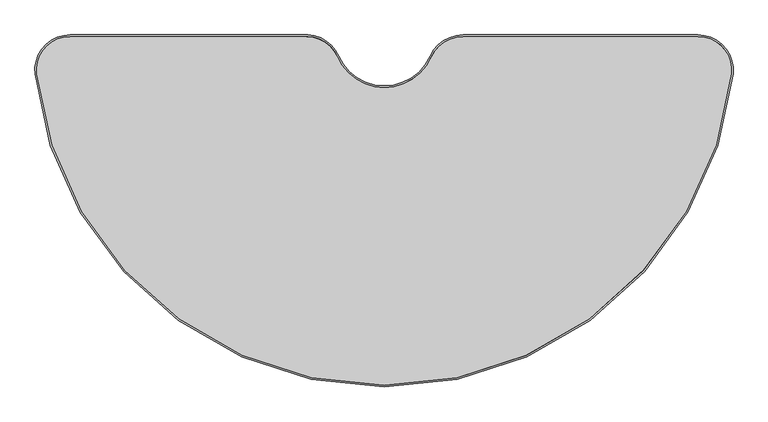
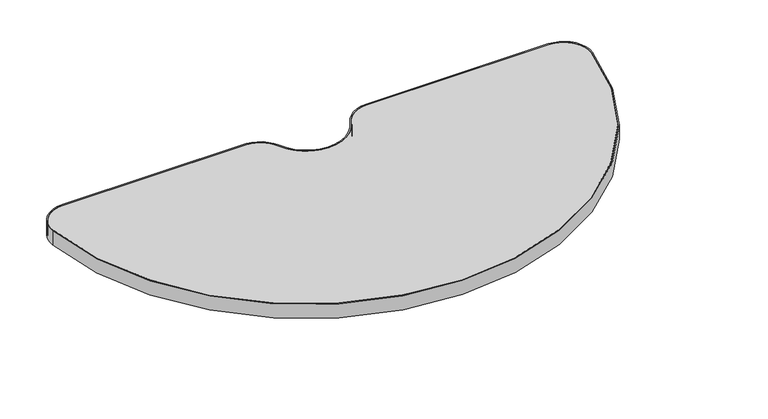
"""IFC4 building model written with IfcOpenShell, lengths in millimetres: furniture geometry, Steelcase - Groupwork - Table - Top - Half Round with Cutout : 21D x 42W - HPL."""

from ifc_helpers import new_model, si_unit, point, frame, frame_2d, origin, place, context, project, spatial, polyline, circle_curve, trimmed, segment, composite_curve, outline, extrude, source, transform, mapped, element, save
from ifc_brep_helpers import plane_surface, cylinder_surface, revolved_surface, advanced_brep


def furniture_9cbd6c0b(model_context):
    return source(origin(), model_context, "Body", "SolidModel", [
        advanced_brep(
        [(-71.4378526, -30.40257, 695.579), (71.1608005, -31.0358902, 695.579), (71.1608005, -31.0358902, 724.281), (-71.4378526, -30.40257, 724.281), (-69.2062796, -29.4255728, 724.281), (68.9379936, -30.0391099, 724.281), (68.9379936, -30.0391099, 695.579), (-69.2062796, -29.4255728, 695.579), (-115.5671126, -6.97e-05, 695.579), (-115.5671126, -6.97e-05, 724.281), (-115.4492453, 2.4331481, 724.281), (-115.4492453, 2.4331481, 695.579), (-474.3153855, 0.0, 724.281), (-474.3153855, 0.0, 695.579), (-474.3153855, 2.4360709, 695.579), (-474.3153855, 2.4360709, 724.281), (-525.0844031, -56.7399707, 695.579), (-525.0844031, -56.7399707, 724.281), (-527.5054916, -57.009733, 724.281), (-527.5054916, -57.009733, 695.579), (524.0303068, -56.2186101, 695.579), (524.0303068, -56.2186101, 724.281), (526.4524448, -56.4787807, 724.281), (526.4524448, -56.4787807, 695.579), (473.5440587, 2.3819932, 724.281), (119.0083908, 2.3819932, 724.281), (473.5440587, -0.0540777, 724.281), (119.0083908, -0.0540777, 724.281), (473.5440587, -0.0540777, 695.579), (473.5440587, 2.3819932, 695.579), (119.0083908, 2.3819932, 695.579), (119.0083908, -0.0540777, 695.579)],
        [
            (0, 1, circle_curve(frame((0.001789, 0.8741706, 695.579), z_axis=(0.0, 0.0, 1.0), x_axis=(0.9124557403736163, -0.40917541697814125, 0.0)), 77.9862609)),
            (1, 2),
            (2, 3, circle_curve(frame((0.001789, 0.8741706, 724.281), z_axis=(0.0, 0.0, -1.0), x_axis=(0.9124557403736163, -0.40917541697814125, 0.0)), 77.9862609)),
            (3, 0),
            (4, 5, circle_curve(frame((0.001789, 0.8741706, 724.281), z_axis=(0.0, 0.0, 1.0), x_axis=(0.9124557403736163, -0.40917541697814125, 0.0)), 75.55019)),
            (5, 6),
            (6, 7, circle_curve(frame((0.001789, 0.8741706, 695.579), z_axis=(0.0, 0.0, -1.0), x_axis=(0.9124557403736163, -0.40917541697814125, 0.0)), 75.55019)),
            (7, 4),
            (8, 0, circle_curve(frame((-118.0279082, -50.8, 695.579), z_axis=(0.0, 0.0, -1.0), x_axis=(0.9160541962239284, 0.40105449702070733, 0.0)), 50.859497)),
            (3, 9, circle_curve(frame((-118.0279082, -50.8, 724.281), z_axis=(0.0, 0.0, 1.0), x_axis=(0.9160541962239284, 0.40105449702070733, 0.0)), 50.859497)),
            (9, 8),
            (10, 4, circle_curve(frame((-118.0279082, -50.8, 724.281), z_axis=(0.0, 0.0, -1.0), x_axis=(0.9160541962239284, 0.40105449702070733, 0.0)), 53.2955679)),
            (7, 11, circle_curve(frame((-118.0279082, -50.8, 695.579), z_axis=(0.0, 0.0, 1.0), x_axis=(0.9160541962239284, 0.40105449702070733, 0.0)), 53.2955679)),
            (11, 10),
            (9, 12),
            (12, 13),
            (13, 8),
            (11, 14),
            (14, 15),
            (15, 10),
            (16, 13, circle_curve(frame((-474.3153855, -51.0831901, 695.579), z_axis=(0.0, 0.0, -1.0), x_axis=(0.0, 1.0, 0.0)), 51.0831901)),
            (12, 17, circle_curve(frame((-474.3153855, -51.0831901, 724.281), z_axis=(0.0, 0.0, 1.0), x_axis=(0.0, 1.0, 0.0)), 51.0831901)),
            (17, 16),
            (18, 15, circle_curve(frame((-474.3153855, -51.0831901, 724.281), z_axis=(0.0, 0.0, -1.0), x_axis=(0.0, 1.0, 0.0)), 53.519261)),
            (14, 19, circle_curve(frame((-474.3153855, -51.0831901, 695.579), z_axis=(0.0, 0.0, 1.0), x_axis=(0.0, 1.0, 0.0)), 53.519261)),
            (19, 18),
            (20, 16, circle_curve(frame((-0.55518, 0.1290185, 695.579), z_axis=(0.0, 0.0, -1.0), x_axis=(-0.994173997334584, -0.10778711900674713, 0.0)), 527.6030593)),
            (17, 21, circle_curve(frame((-0.55518, 0.1290185, 724.281), z_axis=(0.0, 0.0, 1.0), x_axis=(-0.994173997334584, -0.10778711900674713, 0.0)), 527.6030593)),
            (21, 20),
            (22, 18, circle_curve(frame((-0.55518, 0.1290185, 724.281), z_axis=(0.0, 0.0, -1.0), x_axis=(-0.994173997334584, -0.10778711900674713, 0.0)), 530.0391302)),
            (19, 23, circle_curve(frame((-0.55518, 0.1290185, 695.579), z_axis=(0.0, 0.0, 1.0), x_axis=(-0.994173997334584, -0.10778711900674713, 0.0)), 530.0391302)),
            (23, 22),
            (22, 24, circle_curve(frame((473.5440587, -50.8273656, 724.281), z_axis=(0.0, 0.0, 1.0), x_axis=(0.9943467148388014, -0.10618196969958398, 0.0)), 53.2093588)),
            (24, 25),
            (25, 5, circle_curve(frame((119.0083908, -52.4923366, 724.281), z_axis=(0.0, 0.0, 1.0), x_axis=(0.0, 1.0, 0.0)), 54.8743298)),
            (26, 21, circle_curve(frame((473.5440587, -50.8273656, 724.281), z_axis=(0.0, 0.0, -1.0), x_axis=(0.9943467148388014, -0.10618196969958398, 0.0)), 50.7732879)),
            (2, 27, circle_curve(frame((119.0083908, -52.4923366, 724.281), z_axis=(0.0, 0.0, -1.0), x_axis=(0.0, 1.0, 0.0)), 52.4382589)),
            (27, 26),
            (28, 20, circle_curve(frame((473.5440587, -50.8273656, 695.579), z_axis=(0.0, 0.0, -1.0), x_axis=(0.9943467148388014, -0.10618196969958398, 0.0)), 50.7732879)),
            (26, 28),
            (29, 23, circle_curve(frame((473.5440587, -50.8273656, 695.579), z_axis=(0.0, 0.0, -1.0), x_axis=(0.9943467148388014, -0.10618196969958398, 0.0)), 53.2093588)),
            (6, 30, circle_curve(frame((119.0083908, -52.4923366, 695.579), z_axis=(0.0, 0.0, -1.0), x_axis=(0.0, 1.0, 0.0)), 54.8743298)),
            (30, 29),
            (28, 31),
            (31, 1, circle_curve(frame((119.0083908, -52.4923366, 695.579), z_axis=(0.0, 0.0, 1.0), x_axis=(0.0, 1.0, 0.0)), 52.4382589)),
            (29, 24),
            (27, 31),
            (30, 25),
        ],
        [
            cylinder_surface(frame((0.001789, 0.8741706, 0.0), z_axis=(0.0, 0.0, -1.0), x_axis=(0.9124557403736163, -0.40917541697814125, 0.0)), 77.9862609),
            revolved_surface(polyline([(68.93799355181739, -30.0391098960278, 695.579), (68.93799355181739, -30.0391098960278, 724.281)]), (0.001789, 0.8741706, 0.0), (0.0, 0.0, -1.0)),
            revolved_surface(polyline([(-71.43785255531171, -30.402570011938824, 724.281), (-71.43785255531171, -30.402570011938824, 695.579)]), (-118.0279082, -50.8, 0.0), (0.0, 0.0, 1.0)),
            cylinder_surface(frame((-118.0279082, -50.8, 0.0), z_axis=(0.0, 0.0, 1.0), x_axis=(0.9160541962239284, 0.40105449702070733, 0.0)), 53.2955679),
            plane_surface(frame((-115.5671092, 0.0, 724.281), z_axis=(0.0, -1.0, 0.0), x_axis=(-1.0, 0.0, 0.0))),
            plane_surface(frame((-115.4491037, 2.4360709, 695.579), z_axis=(0.0, 1.0, 0.0), x_axis=(-1.0, 0.0, 0.0))),
            revolved_surface(polyline([(-474.3153855, 0.0, 724.281), (-474.3153855, 0.0, 695.579)]), (-474.3153855, -51.0831901, 0.0), (0.0, 0.0, 1.0)),
            cylinder_surface(frame((-474.3153855, -51.0831901, 0.0), z_axis=(0.0, 0.0, 1.0), x_axis=(0.0, 1.0, 0.0)), 53.519261),
            revolved_surface(polyline([(-525.0844224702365, -56.73979524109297, 724.281), (-525.0844224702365, -56.73979524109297, 695.579)]), (-0.55518, 0.1290185, 0.0), (0.0, 0.0, 1.0)),
            cylinder_surface(frame((-0.55518, 0.1290185, 0.0), z_axis=(0.0, 0.0, 1.0), x_axis=(-0.994173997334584, -0.10778711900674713, 0.0)), 530.0391302),
            plane_surface(frame((473.5440587, -50.8273656, 724.281), z_axis=(0.0, 0.0, 1.0), x_axis=(0.9943467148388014, -0.10618196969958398, 0.0))),
            revolved_surface(polyline([(524.0303107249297, -56.218573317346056, 724.281), (524.0303107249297, -56.218573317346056, 695.579)]), (473.5440587, -50.8273656, 0.0), (0.0, 0.0, 1.0)),
            plane_surface(frame((473.5440587, -50.8273656, 695.579), z_axis=(0.0, 0.0, -1.0), x_axis=(0.9943467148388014, -0.10618196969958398, 0.0))),
            cylinder_surface(frame((473.5440587, -50.8273656, 0.0), z_axis=(0.0, 0.0, 1.0), x_axis=(0.9943467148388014, -0.10618196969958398, 0.0)), 53.2093588),
            plane_surface(frame((473.5440587, -0.0540777, 724.281), z_axis=(0.0, -1.0, 0.0), x_axis=(-1.0, 0.0, 0.0))),
            plane_surface(frame((473.5440587, 2.3819932, 695.579), z_axis=(0.0, 1.0, 0.0), x_axis=(-1.0, 0.0, 0.0))),
            revolved_surface(polyline([(119.0083908, -0.05407770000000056, 724.281), (119.0083908, -0.05407770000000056, 695.579)]), (119.0083908, -52.4923366, 0.0), (0.0, 0.0, 1.0)),
            cylinder_surface(frame((119.0083908, -52.4923366, 0.0), z_axis=(0.0, 0.0, 1.0), x_axis=(0.0, 1.0, 0.0)), 54.8743298),
        ],
        [
            (0, [[1, 2, 3, 4]]),
            (1, [[5, 6, 7, 8]]),
            (2, [[9, -4, 10, 11]]),
            (3, [[12, -8, 13, 14]]),
            (4, [[-11, 15, 16, 17]]),
            (5, [[-14, 18, 19, 20]]),
            (6, [[21, -16, 22, 23]]),
            (7, [[24, -19, 25, 26]]),
            (8, [[27, -23, 28, 29]]),
            (9, [[30, -26, 31, 32]]),
            (10, [[33, 34, 35, -5, -12, -20, -24, -30], [36, -28, -22, -15, -10, -3, 37, 38]]),
            (11, [[39, -29, -36, 40]]),
            (12, [[41, -31, -25, -18, -13, -7, 42, 43], [-39, 44, 45, -1, -9, -17, -21, -27]]),
            (13, [[-33, -32, -41, 46]]),
            (14, [[-40, -38, 47, -44]]),
            (15, [[-46, -43, 48, -34]]),
            (16, [[-45, -47, -37, -2]]),
            (17, [[-35, -48, -42, -6]]),
        ],
    ),
        extrude(outline(composite_curve([segment(trimmed(circle_curve(frame_2d((-0.55518, 0.1290185)), 527.5435623), [point((523.9711501, -56.2122558))], [point((-525.025272, -56.7333822))], False, "CARTESIAN"), True, "CONTINUOUS"), segment(trimmed(circle_curve(frame_2d((-474.3153855, -51.0831901)), 51.0236931), [point((-525.025272, -56.7333822))], [point((-474.3153855, -0.059497))], False, "CARTESIAN"), True, "CONTINUOUS"), segment(polyline([(-474.3153855, -0.059497), (-118.0208813, -0.059497)]), True, "CONTINUOUS"), segment(trimmed(circle_curve(frame_2d((-118.0208813, -50.8298796)), 50.7703826), [point((-118.0208813, -0.059497))], [point((-71.5165898, -30.4587573))], False, "CARTESIAN"), True, "CONTINUOUS"), segment(trimmed(circle_curve(frame_2d((-0.0149029, 0.8624297)), 78.0609249), [point((-71.5165898, -30.4587573))], [point((71.4966124, -30.4363111))], True, "CARTESIAN"), True, "CONTINUOUS"), segment(trimmed(circle_curve(frame_2d((118.0333788, -50.8042502)), 50.7988541), [point((71.4966124, -30.4363111))], [point((121.3468354, -0.1135747))], False, "CARTESIAN"), True, "CONTINUOUS"), segment(polyline([(121.3468354, -0.1135747), (473.5440587, -0.1135747)]), True, "CONTINUOUS"), segment(trimmed(circle_curve(frame_2d((473.5440587, -50.8273656)), 50.7137909), [point((473.5440587, -0.1135747))], [point((523.9711501, -56.2122558))], False, "CARTESIAN"), True, "CONTINUOUS")], self_intersect=False)), frame((0.0, 0.0, 695.579), z_axis=(0.0, 0.0, 1.0), x_axis=(1.0, 0.0, 0.0)), (0.0, 0.0, 1.0), 28.702),
    ])


if __name__ == "__main__":
    model = new_model("IFC4")
    model_context = context("Model", 3, world=origin())
    ifc_project = project(units=[si_unit("LENGTHUNIT", "METRE", prefix="MILLI")], contexts=[model_context])
    site = spatial("IfcSite", under=ifc_project)
    building = spatial("IfcBuilding", under=site)
    placement = place(None, origin())
    furniture_shape = furniture_9cbd6c0b(model_context)
    element("IfcFurniture", 1, ObjectType="Steelcase - Groupwork - Table - Top - Half Round with Cutout : 21D x 42W - HPL", at=placement, inside=building, context=model_context, shape_type="MappedRepresentation", body=[
        mapped(furniture_shape, transform((0.0, 0.0, 0.0), x_axis=(1.0, 0.0, 0.0), y_axis=(0.0, 1.0, 0.0), z_axis=(0.0, 0.0, 1.0))),
    ])
    save(model, "model.ifc")
